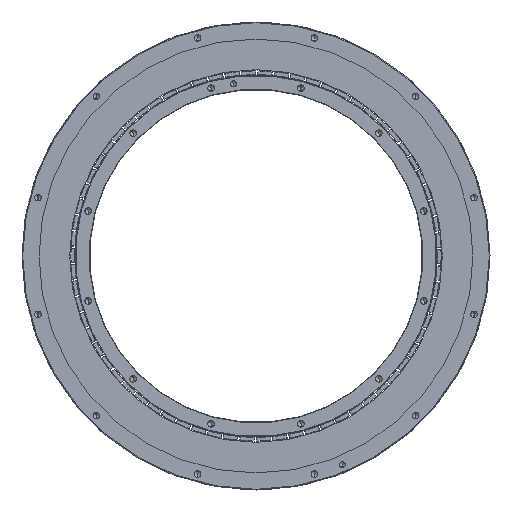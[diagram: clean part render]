
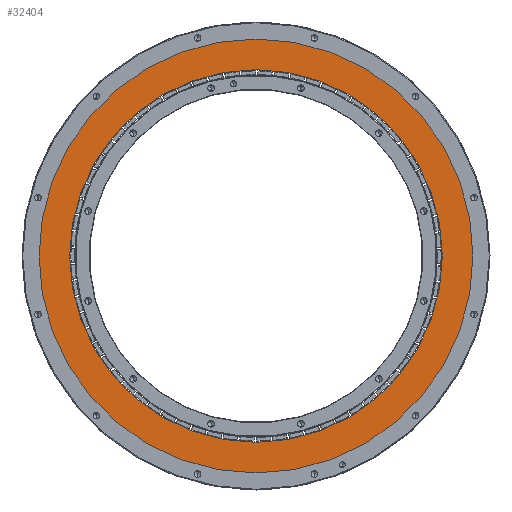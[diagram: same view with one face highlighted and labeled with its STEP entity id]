
A CAD part, front view. The second image highlights one B-rep face of the part: STEP entity #32404.
In plain terms, the highlighted planar face has unit normal (0, -1, 0).
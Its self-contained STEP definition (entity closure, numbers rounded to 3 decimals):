
#259 = CARTESIAN_POINT ( 'NONE',  ( 0., -54., 0. ) ) ;
#2252 = EDGE_LOOP ( 'NONE', ( #7371, #5296 ) ) ;
#3178 = ORIENTED_EDGE ( 'NONE', *, *, #24199, .T. ) ;
#3440 = DIRECTION ( 'NONE',  ( 0., 0., -1. ) ) ;
#4037 = DIRECTION ( 'NONE',  ( 0., -1., 0. ) ) ;
#4111 = CARTESIAN_POINT ( 'NONE',  ( 0., -54., -193.1 ) ) ;
#5296 = ORIENTED_EDGE ( 'NONE', *, *, #6014, .F. ) ;
#5369 = EDGE_CURVE ( 'NONE', #32461, #33069, #6168, .T. ) ;
#6014 = EDGE_CURVE ( 'NONE', #24839, #12373, #14380, .T. ) ;
#6168 = CIRCLE ( 'NONE', #30513, 224.905 ) ;
#6482 = ORIENTED_EDGE ( 'NONE', *, *, #5369, .T. ) ;
#7371 = ORIENTED_EDGE ( 'NONE', *, *, #32967, .F. ) ;
#8206 = DIRECTION ( 'NONE',  ( 0., 0., -1. ) ) ;
#8298 = CARTESIAN_POINT ( 'NONE',  ( 0., -54., 0. ) ) ;
#8538 = CARTESIAN_POINT ( 'NONE',  ( 0., -54., 0. ) ) ;
#12373 = VERTEX_POINT ( 'NONE', #4111 ) ;
#14071 = PLANE ( 'NONE',  #21700 ) ;
#14380 = CIRCLE ( 'NONE', #32092, 193.1 ) ;
#14598 = DIRECTION ( 'NONE',  ( 0., 0., -1. ) ) ;
#17171 = AXIS2_PLACEMENT_3D ( 'NONE', #21132, #31697, #27338 ) ;
#17192 = CARTESIAN_POINT ( 'NONE',  ( 0., -54., 0. ) ) ;
#18847 = DIRECTION ( 'NONE',  ( 0., -1., 0. ) ) ;
#19261 = DIRECTION ( 'NONE',  ( 0., -1., 0. ) ) ;
#19340 = CARTESIAN_POINT ( 'NONE',  ( 0., -54., 193.1 ) ) ;
#21132 = CARTESIAN_POINT ( 'NONE',  ( 0., -54., 0. ) ) ;
#21700 = AXIS2_PLACEMENT_3D ( 'NONE', #259, #19261, #8206 ) ;
#21894 = FACE_BOUND ( 'NONE', #2252, .T. ) ;
#22642 = CARTESIAN_POINT ( 'NONE',  ( 0., -54., -224.905 ) ) ;
#24195 = FACE_OUTER_BOUND ( 'NONE', #30497, .T. ) ;
#24199 = EDGE_CURVE ( 'NONE', #33069, #32461, #25157, .T. ) ;
#24839 = VERTEX_POINT ( 'NONE', #19340 ) ;
#24860 = DIRECTION ( 'NONE',  ( 0., 0., -1. ) ) ;
#25157 = CIRCLE ( 'NONE', #28451, 224.905 ) ;
#26764 = DIRECTION ( 'NONE',  ( 0., -1., 0. ) ) ;
#27338 = DIRECTION ( 'NONE',  ( 0., 0., -1. ) ) ;
#28451 = AXIS2_PLACEMENT_3D ( 'NONE', #8538, #26764, #24860 ) ;
#30497 = EDGE_LOOP ( 'NONE', ( #3178, #6482 ) ) ;
#30513 = AXIS2_PLACEMENT_3D ( 'NONE', #8298, #18847, #3440 ) ;
#31584 = CIRCLE ( 'NONE', #17171, 193.1 ) ;
#31697 = DIRECTION ( 'NONE',  ( 0., -1., 0. ) ) ;
#31943 = CARTESIAN_POINT ( 'NONE',  ( 0., -54., 224.905 ) ) ;
#32092 = AXIS2_PLACEMENT_3D ( 'NONE', #17192, #4037, #14598 ) ;
#32404 = ADVANCED_FACE ( 'NONE', ( #21894, #24195 ), #14071, .T. ) ;
#32461 = VERTEX_POINT ( 'NONE', #31943 ) ;
#32967 = EDGE_CURVE ( 'NONE', #12373, #24839, #31584, .T. ) ;
#33069 = VERTEX_POINT ( 'NONE', #22642 ) ;
